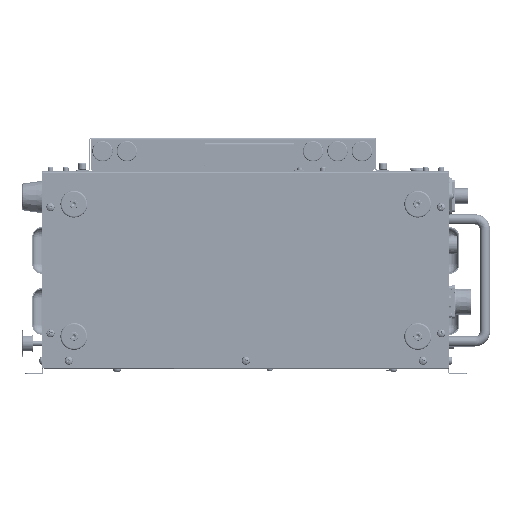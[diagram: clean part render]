
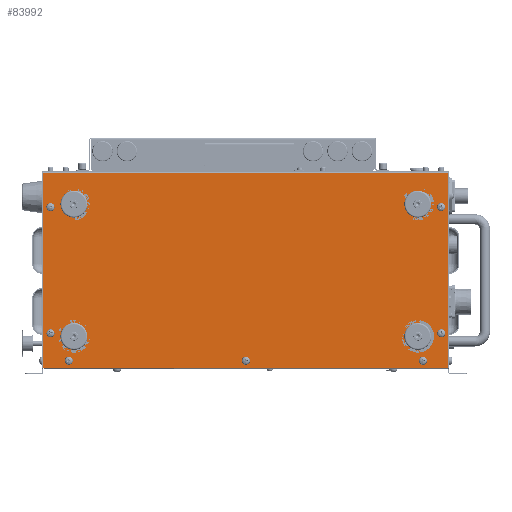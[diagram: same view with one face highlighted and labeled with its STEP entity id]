
A CAD part, front view. The second image highlights one B-rep face of the part: STEP entity #83992.
In plain terms, the highlighted planar face has unit normal (0, -1, 0).
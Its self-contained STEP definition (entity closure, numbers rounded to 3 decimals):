
#3399=FACE_BOUND('',#11104,.T.);
#3400=FACE_BOUND('',#11105,.T.);
#3401=FACE_BOUND('',#11106,.T.);
#3402=FACE_BOUND('',#11107,.T.);
#3403=FACE_BOUND('',#11108,.T.);
#3404=FACE_BOUND('',#11109,.T.);
#3405=FACE_BOUND('',#11110,.T.);
#3406=FACE_BOUND('',#11111,.T.);
#3407=FACE_BOUND('',#11112,.T.);
#3408=FACE_BOUND('',#11113,.T.);
#3409=FACE_BOUND('',#11114,.T.);
#4091=PLANE('',#88868);
#6446=FACE_OUTER_BOUND('',#11103,.T.);
#11103=EDGE_LOOP('',(#55668,#55669,#55670,#55671));
#11104=EDGE_LOOP('',(#55672));
#11105=EDGE_LOOP('',(#55673));
#11106=EDGE_LOOP('',(#55674));
#11107=EDGE_LOOP('',(#55675));
#11108=EDGE_LOOP('',(#55676));
#11109=EDGE_LOOP('',(#55677));
#11110=EDGE_LOOP('',(#55678));
#11111=EDGE_LOOP('',(#55679));
#11112=EDGE_LOOP('',(#55680));
#11113=EDGE_LOOP('',(#55681));
#11114=EDGE_LOOP('',(#55682));
#16890=LINE('',#122515,#23356);
#16904=LINE('',#122597,#23370);
#16905=LINE('',#122599,#23371);
#16906=LINE('',#122600,#23372);
#23356=VECTOR('',#98558,10.);
#23370=VECTOR('',#98654,10.);
#23371=VECTOR('',#98655,10.);
#23372=VECTOR('',#98656,10.);
#29138=CIRCLE('',#88869,2.067);
#29139=CIRCLE('',#88870,2.067);
#29140=CIRCLE('',#88871,2.067);
#29141=CIRCLE('',#88872,2.067);
#29142=CIRCLE('',#88873,2.5);
#29143=CIRCLE('',#88874,2.5);
#29144=CIRCLE('',#88875,2.5);
#29145=CIRCLE('',#88876,2.5);
#29146=CIRCLE('',#88877,2.5);
#29147=CIRCLE('',#88878,2.5);
#29148=CIRCLE('',#88879,2.5);
#33766=VERTEX_POINT('',#122512);
#33767=VERTEX_POINT('',#122514);
#33794=VERTEX_POINT('',#122596);
#33795=VERTEX_POINT('',#122598);
#33796=VERTEX_POINT('',#122601);
#33797=VERTEX_POINT('',#122603);
#33798=VERTEX_POINT('',#122605);
#33799=VERTEX_POINT('',#122607);
#33800=VERTEX_POINT('',#122609);
#33801=VERTEX_POINT('',#122611);
#33802=VERTEX_POINT('',#122613);
#33803=VERTEX_POINT('',#122615);
#33804=VERTEX_POINT('',#122617);
#33805=VERTEX_POINT('',#122619);
#33806=VERTEX_POINT('',#122621);
#42236=EDGE_CURVE('',#33766,#33767,#16890,.T.);
#42270=EDGE_CURVE('',#33766,#33794,#16904,.T.);
#42271=EDGE_CURVE('',#33795,#33794,#16905,.T.);
#42272=EDGE_CURVE('',#33795,#33767,#16906,.T.);
#42273=EDGE_CURVE('',#33796,#33796,#29138,.T.);
#42274=EDGE_CURVE('',#33797,#33797,#29139,.T.);
#42275=EDGE_CURVE('',#33798,#33798,#29140,.T.);
#42276=EDGE_CURVE('',#33799,#33799,#29141,.T.);
#42277=EDGE_CURVE('',#33800,#33800,#29142,.T.);
#42278=EDGE_CURVE('',#33801,#33801,#29143,.T.);
#42279=EDGE_CURVE('',#33802,#33802,#29144,.T.);
#42280=EDGE_CURVE('',#33803,#33803,#29145,.T.);
#42281=EDGE_CURVE('',#33804,#33804,#29146,.T.);
#42282=EDGE_CURVE('',#33805,#33805,#29147,.T.);
#42283=EDGE_CURVE('',#33806,#33806,#29148,.T.);
#55668=ORIENTED_EDGE('',*,*,#42236,.F.);
#55669=ORIENTED_EDGE('',*,*,#42270,.T.);
#55670=ORIENTED_EDGE('',*,*,#42271,.F.);
#55671=ORIENTED_EDGE('',*,*,#42272,.T.);
#55672=ORIENTED_EDGE('',*,*,#42273,.T.);
#55673=ORIENTED_EDGE('',*,*,#42274,.T.);
#55674=ORIENTED_EDGE('',*,*,#42275,.T.);
#55675=ORIENTED_EDGE('',*,*,#42276,.T.);
#55676=ORIENTED_EDGE('',*,*,#42277,.T.);
#55677=ORIENTED_EDGE('',*,*,#42278,.T.);
#55678=ORIENTED_EDGE('',*,*,#42279,.T.);
#55679=ORIENTED_EDGE('',*,*,#42280,.T.);
#55680=ORIENTED_EDGE('',*,*,#42281,.T.);
#55681=ORIENTED_EDGE('',*,*,#42282,.T.);
#55682=ORIENTED_EDGE('',*,*,#42283,.T.);
#83992=ADVANCED_FACE('',(#6446,#3399,#3400,#3401,#3402,#3403,#3404,#3405,
#3406,#3407,#3408,#3409),#4091,.T.);
#88868=AXIS2_PLACEMENT_3D('',#122595,#98652,#98653);
#88869=AXIS2_PLACEMENT_3D('',#122602,#98657,#98658);
#88870=AXIS2_PLACEMENT_3D('',#122604,#98659,#98660);
#88871=AXIS2_PLACEMENT_3D('',#122606,#98661,#98662);
#88872=AXIS2_PLACEMENT_3D('',#122608,#98663,#98664);
#88873=AXIS2_PLACEMENT_3D('',#122610,#98665,#98666);
#88874=AXIS2_PLACEMENT_3D('',#122612,#98667,#98668);
#88875=AXIS2_PLACEMENT_3D('',#122614,#98669,#98670);
#88876=AXIS2_PLACEMENT_3D('',#122616,#98671,#98672);
#88877=AXIS2_PLACEMENT_3D('',#122618,#98673,#98674);
#88878=AXIS2_PLACEMENT_3D('',#122620,#98675,#98676);
#88879=AXIS2_PLACEMENT_3D('',#122622,#98677,#98678);
#98558=DIRECTION('',(-1.,0.,0.));
#98652=DIRECTION('center_axis',(0.,-1.,0.));
#98653=DIRECTION('ref_axis',(1.,0.,0.));
#98654=DIRECTION('',(0.,0.,1.));
#98655=DIRECTION('',(1.,0.,0.));
#98656=DIRECTION('',(0.,0.,-1.));
#98657=DIRECTION('center_axis',(0.,1.,0.));
#98658=DIRECTION('ref_axis',(-1.,0.,0.));
#98659=DIRECTION('center_axis',(0.,1.,0.));
#98660=DIRECTION('ref_axis',(-1.,0.,0.));
#98661=DIRECTION('center_axis',(0.,1.,0.));
#98662=DIRECTION('ref_axis',(-1.,0.,0.));
#98663=DIRECTION('center_axis',(0.,1.,0.));
#98664=DIRECTION('ref_axis',(-1.,0.,0.));
#98665=DIRECTION('center_axis',(0.,1.,0.));
#98666=DIRECTION('ref_axis',(1.,0.,0.));
#98667=DIRECTION('center_axis',(0.,1.,0.));
#98668=DIRECTION('ref_axis',(1.,0.,0.));
#98669=DIRECTION('center_axis',(0.,1.,0.));
#98670=DIRECTION('ref_axis',(1.,0.,0.));
#98671=DIRECTION('center_axis',(0.,1.,0.));
#98672=DIRECTION('ref_axis',(1.,0.,0.));
#98673=DIRECTION('center_axis',(0.,1.,0.));
#98674=DIRECTION('ref_axis',(1.,0.,0.));
#98675=DIRECTION('center_axis',(0.,1.,0.));
#98676=DIRECTION('ref_axis',(1.,0.,0.));
#98677=DIRECTION('center_axis',(0.,1.,0.));
#98678=DIRECTION('ref_axis',(1.,0.,0.));
#122512=CARTESIAN_POINT('',(199.,-76.75,-194.));
#122514=CARTESIAN_POINT('',(-199.,-76.75,-194.));
#122515=CARTESIAN_POINT('',(99.5,-76.75,-194.));
#122595=CARTESIAN_POINT('Origin',(0.,-76.75,-98.));
#122596=CARTESIAN_POINT('',(199.,-76.75,-2.5));
#122597=CARTESIAN_POINT('',(199.,-76.75,-195.));
#122598=CARTESIAN_POINT('',(-199.,-76.75,-2.5));
#122599=CARTESIAN_POINT('',(-159.,-76.75,-2.5));
#122600=CARTESIAN_POINT('',(-199.,-76.75,-1.));
#122601=CARTESIAN_POINT('',(-166.933,-76.75,-163.));
#122602=CARTESIAN_POINT('Origin',(-169.,-76.75,-163.));
#122603=CARTESIAN_POINT('',(171.067,-76.75,-33.));
#122604=CARTESIAN_POINT('Origin',(169.,-76.75,-33.));
#122605=CARTESIAN_POINT('',(171.067,-76.75,-163.));
#122606=CARTESIAN_POINT('Origin',(169.,-76.75,-163.));
#122607=CARTESIAN_POINT('',(-166.933,-76.75,-33.));
#122608=CARTESIAN_POINT('Origin',(-169.,-76.75,-33.));
#122609=CARTESIAN_POINT('',(-194.5,-76.75,-36.));
#122610=CARTESIAN_POINT('Origin',(-192.,-76.75,-36.));
#122611=CARTESIAN_POINT('',(189.5,-76.75,-160.));
#122612=CARTESIAN_POINT('Origin',(192.,-76.75,-160.));
#122613=CARTESIAN_POINT('',(189.5,-76.75,-36.));
#122614=CARTESIAN_POINT('Origin',(192.,-76.75,-36.));
#122615=CARTESIAN_POINT('',(-194.5,-76.75,-160.));
#122616=CARTESIAN_POINT('Origin',(-192.,-76.75,-160.));
#122617=CARTESIAN_POINT('',(171.5,-76.75,-187.));
#122618=CARTESIAN_POINT('Origin',(174.,-76.75,-187.));
#122619=CARTESIAN_POINT('',(-2.5,-76.75,-187.));
#122620=CARTESIAN_POINT('Origin',(0.,-76.75,
-187.));
#122621=CARTESIAN_POINT('',(-176.5,-76.75,-187.));
#122622=CARTESIAN_POINT('Origin',(-174.,-76.75,-187.));
